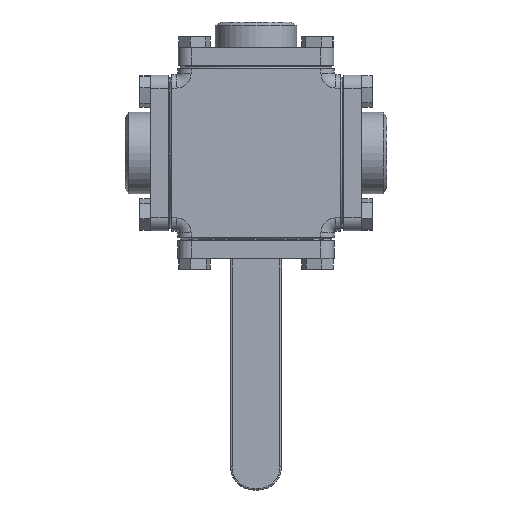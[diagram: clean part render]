
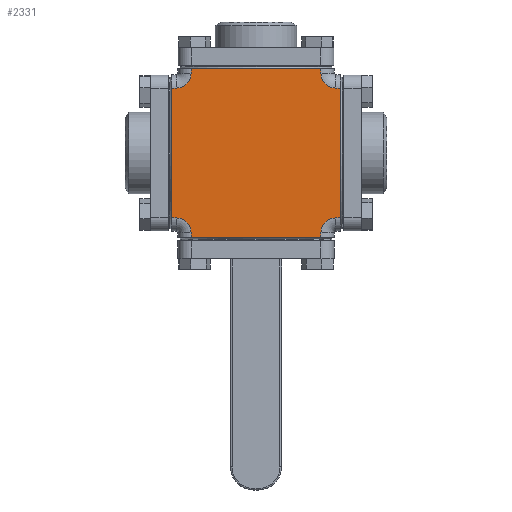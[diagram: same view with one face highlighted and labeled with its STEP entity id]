
A CAD part, front view. The second image highlights one B-rep face of the part: STEP entity #2331.
In plain terms, the highlighted planar face has unit normal (0, -1, 0).
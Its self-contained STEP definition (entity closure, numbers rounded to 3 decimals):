
#869 = CARTESIAN_POINT ( 'NONE',  ( 47.25, -47.25, -51. ) ) ;
#870 = DIRECTION ( 'NONE',  ( -1., 0., 0. ) ) ;
#889 = CARTESIAN_POINT ( 'NONE',  ( -51., -47.25, -47.25 ) ) ;
#890 = DIRECTION ( 'NONE',  ( 0., 0., 1. ) ) ;
#912 = CARTESIAN_POINT ( 'NONE',  ( -47.25, -47.25, 51. ) ) ;
#913 = DIRECTION ( 'NONE',  ( 1., 0., 0. ) ) ;
#2055 = ORIENTED_EDGE ( 'NONE', *, *, #10666, .T. ) ;
#2056 = ORIENTED_EDGE ( 'NONE', *, *, #10665, .T. ) ;
#2057 = ORIENTED_EDGE ( 'NONE', *, *, #11433, .F. ) ;
#2058 = ORIENTED_EDGE ( 'NONE', *, *, #10667, .T. ) ;
#2059 = ORIENTED_EDGE ( 'NONE', *, *, #10664, .T. ) ;
#2060 = ORIENTED_EDGE ( 'NONE', *, *, #10657, .T. ) ;
#2061 = ORIENTED_EDGE ( 'NONE', *, *, #11424, .F. ) ;
#2062 = ORIENTED_EDGE ( 'NONE', *, *, #10668, .T. ) ;
#2063 = ORIENTED_EDGE ( 'NONE', *, *, #10670, .T. ) ;
#2064 = ORIENTED_EDGE ( 'NONE', *, *, #10663, .T. ) ;
#2065 = ORIENTED_EDGE ( 'NONE', *, *, #11417, .F. ) ;
#2066 = ORIENTED_EDGE ( 'NONE', *, *, #10671, .T. ) ;
#2067 = ORIENTED_EDGE ( 'NONE', *, *, #10673, .T. ) ;
#2068 = ORIENTED_EDGE ( 'NONE', *, *, #10669, .T. ) ;
#2069 = ORIENTED_EDGE ( 'NONE', *, *, #10660, .F. ) ;
#2070 = ORIENTED_EDGE ( 'NONE', *, *, #10674, .T. ) ;
#2331 = ADVANCED_FACE ( 'NONE', ( #6666 ), #3923, .F. ) ;
#3877 = CARTESIAN_POINT ( 'NONE',  ( 51., -47.25, 47.25 ) ) ;
#3923 = PLANE ( 'NONE',  #11620 ) ;
#3969 = DIRECTION ( 'NONE',  ( 0., 0., 1. ) ) ;
#4079 = DIRECTION ( 'NONE',  ( 0., 1., 0. ) ) ;
#5047 = LINE ( 'NONE', #869, #5055 ) ;
#5055 = VECTOR ( 'NONE', #870, 1000. ) ;
#5062 = LINE ( 'NONE', #889, #5066 ) ;
#5066 = VECTOR ( 'NONE', #890, 1000. ) ;
#5075 = LINE ( 'NONE', #912, #5078 ) ;
#5078 = VECTOR ( 'NONE', #913, 1000. ) ;
#5412 = EDGE_LOOP ( 'NONE', ( #2055, #2056, #2057, #2058, #2059, #2060, #2061, #2062, #2063, #2064, #2065, #2066, #2067, #2068, #2069, #2070 ) ) ;
#5826 = VERTEX_POINT ( 'NONE', #9254 ) ;
#5827 = VERTEX_POINT ( 'NONE', #9255 ) ;
#5831 = VERTEX_POINT ( 'NONE', #9259 ) ;
#5839 = VERTEX_POINT ( 'NONE', #9267 ) ;
#5847 = VERTEX_POINT ( 'NONE', #9275 ) ;
#5856 = VERTEX_POINT ( 'NONE', #9284 ) ;
#5859 = VERTEX_POINT ( 'NONE', #9287 ) ;
#5860 = VERTEX_POINT ( 'NONE', #9288 ) ;
#5861 = VERTEX_POINT ( 'NONE', #9289 ) ;
#5863 = VERTEX_POINT ( 'NONE', #9291 ) ;
#5879 = VERTEX_POINT ( 'NONE', #9307 ) ;
#5882 = VERTEX_POINT ( 'NONE', #9310 ) ;
#5883 = VERTEX_POINT ( 'NONE', #9311 ) ;
#5884 = VERTEX_POINT ( 'NONE', #9312 ) ;
#5892 = VERTEX_POINT ( 'NONE', #9320 ) ;
#5897 = VERTEX_POINT ( 'NONE', #9325 ) ;
#6666 = FACE_OUTER_BOUND ( 'NONE', #5412, .T. ) ;
#7395 = LINE ( 'NONE', #7965, #7399 ) ;
#7398 = VECTOR ( 'NONE', #7983, 1000. ) ;
#7399 = VECTOR ( 'NONE', #7966, 1000. ) ;
#7402 = LINE ( 'NONE', #7974, #7403 ) ;
#7403 = VECTOR ( 'NONE', #7975, 1000. ) ;
#7405 = LINE ( 'NONE', #7987, #7407 ) ;
#7407 = VECTOR ( 'NONE', #7988, 1000. ) ;
#7408 = LINE ( 'NONE', #7992, #7413 ) ;
#7410 = LINE ( 'NONE', #7976, #7398 ) ;
#7412 = LINE ( 'NONE', #8001, #7415 ) ;
#7413 = VECTOR ( 'NONE', #7993, 1000. ) ;
#7414 = CIRCLE ( 'NONE', #11870, 9. ) ;
#7415 = VECTOR ( 'NONE', #8002, 1000. ) ;
#7416 = CIRCLE ( 'NONE', #11871, 9. ) ;
#7417 = LINE ( 'NONE', #7994, #7418 ) ;
#7418 = VECTOR ( 'NONE', #7995, 1000. ) ;
#7419 = LINE ( 'NONE', #7996, #7420 ) ;
#7420 = VECTOR ( 'NONE', #7997, 1000. ) ;
#7421 = LINE ( 'NONE', #8008, #7425 ) ;
#7423 = CIRCLE ( 'NONE', #11872, 9. ) ;
#7425 = VECTOR ( 'NONE', #8009, 1000. ) ;
#7428 = CIRCLE ( 'NONE', #11866, 9. ) ;
#7965 = CARTESIAN_POINT ( 'NONE',  ( 51., -47.25, 39.25 ) ) ;
#7966 = DIRECTION ( 'NONE',  ( -1., 0., 0. ) ) ;
#7974 = CARTESIAN_POINT ( 'NONE',  ( 51., -47.25, 47.25 ) ) ;
#7975 = DIRECTION ( 'NONE',  ( 0., 0., -1. ) ) ;
#7976 = CARTESIAN_POINT ( 'NONE',  ( -39.25, -47.25, 47.25 ) ) ;
#7979 = CARTESIAN_POINT ( 'NONE',  ( 48.25, -47.25, 48.25 ) ) ;
#7982 = CARTESIAN_POINT ( 'NONE',  ( -48.25, -47.25, 48.25 ) ) ;
#7983 = DIRECTION ( 'NONE',  ( 0., 0., -1. ) ) ;
#7984 = CARTESIAN_POINT ( 'NONE',  ( -48.25, -47.25, -48.25 ) ) ;
#7985 = DIRECTION ( 'NONE',  ( 0., 1., 0. ) ) ;
#7986 = DIRECTION ( 'NONE',  ( 0., 0., 1. ) ) ;
#7987 = CARTESIAN_POINT ( 'NONE',  ( 39.25, -47.25, 47.25 ) ) ;
#7988 = DIRECTION ( 'NONE',  ( 0., 0., 1. ) ) ;
#7990 = DIRECTION ( 'NONE',  ( 0., 1., 0. ) ) ;
#7991 = DIRECTION ( 'NONE',  ( 0., 0., 1. ) ) ;
#7992 = CARTESIAN_POINT ( 'NONE',  ( -39.25, -47.25, 47.25 ) ) ;
#7993 = DIRECTION ( 'NONE',  ( 0., 0., -1. ) ) ;
#7994 = CARTESIAN_POINT ( 'NONE',  ( 51., -47.25, -39.25 ) ) ;
#7995 = DIRECTION ( 'NONE',  ( 1., 0., 0. ) ) ;
#7996 = CARTESIAN_POINT ( 'NONE',  ( 51., -47.25, -39.25 ) ) ;
#7997 = DIRECTION ( 'NONE',  ( 1., 0., 0. ) ) ;
#7998 = CARTESIAN_POINT ( 'NONE',  ( 48.25, -47.25, -48.25 ) ) ;
#7999 = DIRECTION ( 'NONE',  ( 0., 1., 0. ) ) ;
#8000 = DIRECTION ( 'NONE',  ( 0., 0., 1. ) ) ;
#8001 = CARTESIAN_POINT ( 'NONE',  ( 39.25, -47.25, 47.25 ) ) ;
#8002 = DIRECTION ( 'NONE',  ( 0., 0., 1. ) ) ;
#8006 = DIRECTION ( 'NONE',  ( 0., 1., 0. ) ) ;
#8007 = DIRECTION ( 'NONE',  ( 0., 0., 1. ) ) ;
#8008 = CARTESIAN_POINT ( 'NONE',  ( 51., -47.25, 39.25 ) ) ;
#8009 = DIRECTION ( 'NONE',  ( -1., 0., 0. ) ) ;
#9254 = CARTESIAN_POINT ( 'NONE',  ( -48.25, -47.25, 39.25 ) ) ;
#9255 = CARTESIAN_POINT ( 'NONE',  ( 48.25, -47.25, -39.25 ) ) ;
#9259 = CARTESIAN_POINT ( 'NONE',  ( -39.25, -47.25, -48.25 ) ) ;
#9267 = CARTESIAN_POINT ( 'NONE',  ( 51., -47.25, 39.25 ) ) ;
#9275 = CARTESIAN_POINT ( 'NONE',  ( -48.25, -47.25, -39.25 ) ) ;
#9284 = CARTESIAN_POINT ( 'NONE',  ( 39.25, -47.25, -48.25 ) ) ;
#9287 = CARTESIAN_POINT ( 'NONE',  ( 39.25, -47.25, 51. ) ) ;
#9288 = CARTESIAN_POINT ( 'NONE',  ( -39.25, -47.25, 51. ) ) ;
#9289 = CARTESIAN_POINT ( 'NONE',  ( -39.25, -47.25, 48.25 ) ) ;
#9291 = CARTESIAN_POINT ( 'NONE',  ( 39.25, -47.25, 48.25 ) ) ;
#9307 = CARTESIAN_POINT ( 'NONE',  ( -51., -47.25, 39.25 ) ) ;
#9310 = CARTESIAN_POINT ( 'NONE',  ( -51., -47.25, -39.25 ) ) ;
#9311 = CARTESIAN_POINT ( 'NONE',  ( -39.25, -47.25, -51. ) ) ;
#9312 = CARTESIAN_POINT ( 'NONE',  ( 39.25, -47.25, -51. ) ) ;
#9320 = CARTESIAN_POINT ( 'NONE',  ( 48.25, -47.25, 39.25 ) ) ;
#9325 = CARTESIAN_POINT ( 'NONE',  ( 51., -47.25, -39.25 ) ) ;
#10657 = EDGE_CURVE ( 'NONE', #5826, #5879, #7395, .T. ) ;
#10660 = EDGE_CURVE ( 'NONE', #5839, #5897, #7402, .T. ) ;
#10663 = EDGE_CURVE ( 'NONE', #5831, #5883, #7410, .T. ) ;
#10664 = EDGE_CURVE ( 'NONE', #5861, #5826, #7414, .T. ) ;
#10665 = EDGE_CURVE ( 'NONE', #5863, #5859, #7405, .T. ) ;
#10666 = EDGE_CURVE ( 'NONE', #5892, #5863, #7416, .T. ) ;
#10667 = EDGE_CURVE ( 'NONE', #5860, #5861, #7408, .T. ) ;
#10668 = EDGE_CURVE ( 'NONE', #5882, #5847, #7417, .T. ) ;
#10669 = EDGE_CURVE ( 'NONE', #5827, #5897, #7419, .T. ) ;
#10670 = EDGE_CURVE ( 'NONE', #5847, #5831, #7423, .T. ) ;
#10671 = EDGE_CURVE ( 'NONE', #5884, #5856, #7412, .T. ) ;
#10673 = EDGE_CURVE ( 'NONE', #5856, #5827, #7428, .T. ) ;
#10674 = EDGE_CURVE ( 'NONE', #5839, #5892, #7421, .T. ) ;
#11417 = EDGE_CURVE ( 'NONE', #5884, #5883, #5047, .T. ) ;
#11424 = EDGE_CURVE ( 'NONE', #5882, #5879, #5062, .T. ) ;
#11433 = EDGE_CURVE ( 'NONE', #5860, #5859, #5075, .T. ) ;
#11620 = AXIS2_PLACEMENT_3D ( 'NONE', #3877, #4079, #3969 ) ;
#11866 = AXIS2_PLACEMENT_3D ( 'NONE', #7998, #8006, #8007 ) ;
#11870 = AXIS2_PLACEMENT_3D ( 'NONE', #7982, #7985, #7986 ) ;
#11871 = AXIS2_PLACEMENT_3D ( 'NONE', #7979, #7990, #7991 ) ;
#11872 = AXIS2_PLACEMENT_3D ( 'NONE', #7984, #7999, #8000 ) ;
